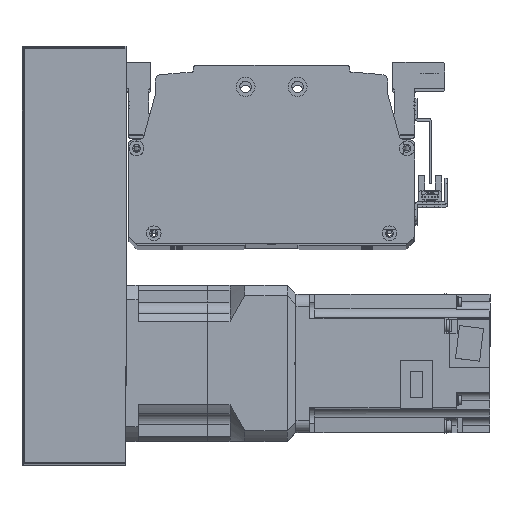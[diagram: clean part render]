
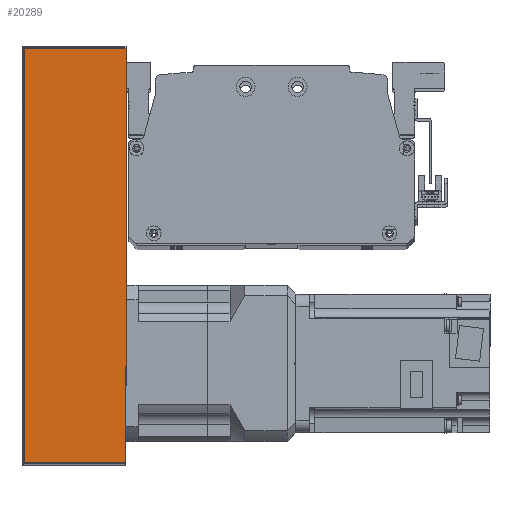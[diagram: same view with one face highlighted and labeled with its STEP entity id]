
A CAD part, top view. The second image highlights one B-rep face of the part: STEP entity #20289.
In plain terms, the highlighted planar face has unit normal (0, 0, 1) as drawn and (0, 1, 0) by its records, which use the part's own axes.
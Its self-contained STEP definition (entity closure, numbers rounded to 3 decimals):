
#601=PLANE('',#22151);
#1729=LINE('',#32645,#3389);
#1751=LINE('',#32738,#3411);
#1753=LINE('',#32748,#3413);
#1755=LINE('',#32751,#3415);
#3389=VECTOR('',#26436,10.);
#3411=VECTOR('',#26556,10.);
#3413=VECTOR('',#26570,10.);
#3415=VECTOR('',#26574,10.);
#5442=FACE_OUTER_BOUND('',#6914,.T.);
#6914=EDGE_LOOP('',(#16480,#16481,#16482,#16483));
#9828=VERTEX_POINT('',#32642);
#9829=VERTEX_POINT('',#32644);
#9850=VERTEX_POINT('',#32732);
#9853=VERTEX_POINT('',#32744);
#12210=EDGE_CURVE('',#9828,#9829,#1729,.T.);
#12258=EDGE_CURVE('',#9850,#9828,#1751,.T.);
#12263=EDGE_CURVE('',#9829,#9853,#1753,.T.);
#12265=EDGE_CURVE('',#9853,#9850,#1755,.T.);
#16480=ORIENTED_EDGE('',*,*,#12258,.F.);
#16481=ORIENTED_EDGE('',*,*,#12265,.F.);
#16482=ORIENTED_EDGE('',*,*,#12263,.F.);
#16483=ORIENTED_EDGE('',*,*,#12210,.F.);
#20289=ADVANCED_FACE('',(#5442),#601,.T.);
#22151=AXIS2_PLACEMENT_3D('',#32757,#26582,#26583);
#26436=DIRECTION('',(-1.,0.,0.));
#26556=DIRECTION('',(0.,0.,1.));
#26570=DIRECTION('',(0.,0.,-1.));
#26574=DIRECTION('',(1.,0.,0.));
#26582=DIRECTION('center_axis',(0.,1.,0.));
#26583=DIRECTION('ref_axis',(-1.,0.,0.));
#32642=CARTESIAN_POINT('',(120.,51.,30.));
#32644=CARTESIAN_POINT('',(-120.,51.,30.));
#32645=CARTESIAN_POINT('',(-121.,51.,30.));
#32732=CARTESIAN_POINT('',(120.,51.,-29.));
#32738=CARTESIAN_POINT('',(120.,51.,0.));
#32744=CARTESIAN_POINT('',(-120.,51.,-29.));
#32748=CARTESIAN_POINT('',(-120.,51.,0.));
#32751=CARTESIAN_POINT('',(60.5,51.,-29.));
#32757=CARTESIAN_POINT('Origin',(121.,51.,0.));
